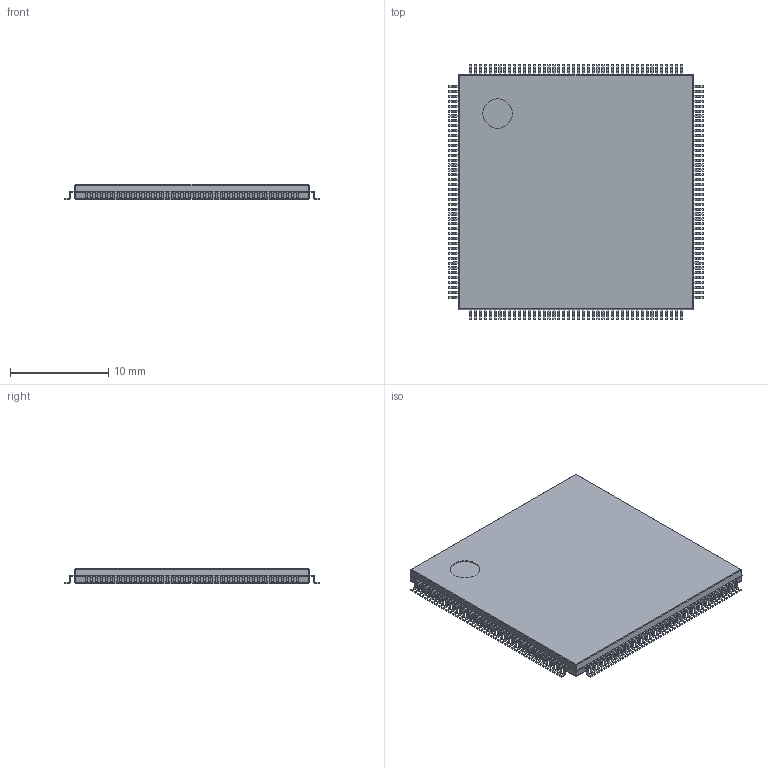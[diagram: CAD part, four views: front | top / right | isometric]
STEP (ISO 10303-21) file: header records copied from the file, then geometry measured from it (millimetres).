
FILE_DESCRIPTION(('Open CASCADE Model'),'2;1');
FILE_NAME('Open CASCADE Shape Model','2022-11-10T11:07:57',('Author'),( 'Open CASCADE'),'Open CASCADE STEP processor 6.8','Open CASCADE 6.8' ,'Unknown');
FILE_SCHEMA(('AUTOMOTIVE_DESIGN { 1 0 10303 214 1 1 1 1 }'));
Length unit declared in the file: millimetre
Products named in the file (6): TSQFP50P2600X2600X160-176N.step; Open CASCADE STEP translator 6.8 44.1; Body; Open CASCADE STEP translator 6.8 44.2.1; Leader
Assembly tree (179 placements, depth 3):
  TSQFP50P2600X2600X160-176N.step
    Open CASCADE STEP translator 6.8 44.1
    Body
      Open CASCADE STEP translator 6.8 44.2.1
    Leader  x88
    Leader  x88
Bounding box: 26 x 26 x 1.6 mm (x, y, z)
Volume: 892.8 mm3; surface area: 1481.1 mm2
Topology: 177 solids, 178 shells, 3933 faces, 7868 edges, 4283 vertices
Faces by surface type: plane 3184, cylinder 733, sphere 8, bspline 8
Full cylindrical faces by diameter (mm): 3 x1
Entity records: 4739 total; most frequent: CARTESIAN_POINT 1348, DIRECTION 769, ORIENTED_EDGE 407, AXIS2_PLACEMENT_3D 320, EDGE_CURVE 204, PRODUCT_DEFINITION_SHAPE 185, CONTEXT_DEPENDENT_SHAPE_REPRESENTATION 179, ITEM_DEFINED_TRANSFORMATION 179
